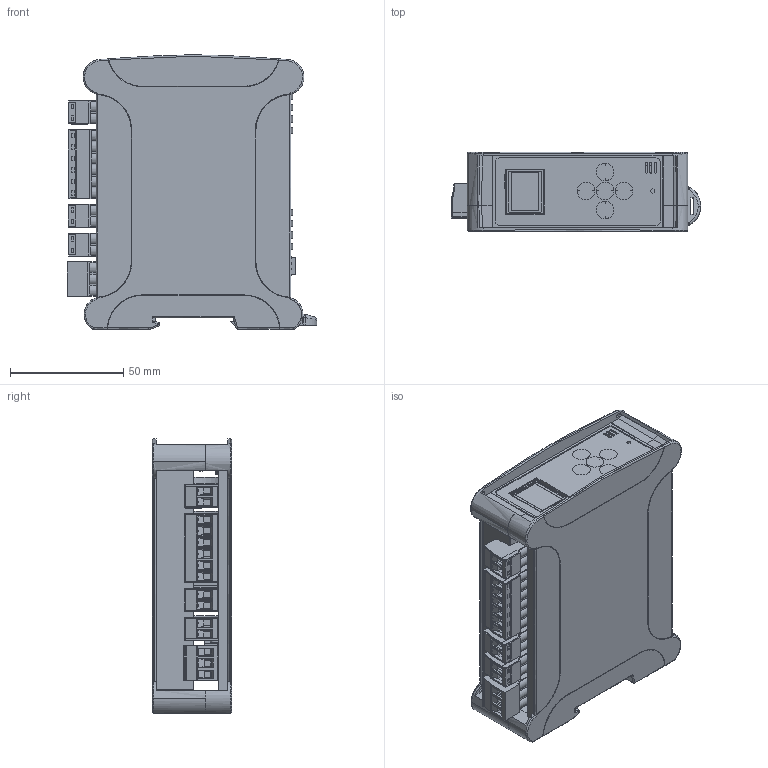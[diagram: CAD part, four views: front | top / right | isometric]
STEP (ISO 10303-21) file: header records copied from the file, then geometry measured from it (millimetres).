
FILE_DESCRIPTION(/* description */ (''),/* implementation_level */ '2;1');
FILE_NAME(/* name */ 'SNS11U~1',/* time_stamp */ '2020-09-03T12:33:45+02:00',/* author */ (''),/* organization */ (''),/* preprocessor_version */ 'ST-DEVELOPER v14',/* originating_system */ '',/* authorisation */ '');
FILE_SCHEMA (('CONFIG_CONTROL_DESIGN'));
Products named in the file (37): SNS11UM00; CMX_35_3D; Blocco 01; TMS-PWR_R1_SAUL_RJ45; Front_CTRL_Panel_Decal; TMS-CTR_R1; Free-Models; STR-S69571-DD008MB_V01_9; STR-S69571-DD008MB_V01_3; STR-S69571-DD008MB_V01_5; STR-S69571-DD008MB_V01_6; STR-S69571-DD008MB_V01; STR-S69571-DD008MB_V01_2; STR-S69571-DD008MB_V01_8; STR-S69571-DD008MB_V01_7; STR-S69571-DD008MB_V01_4; DT-03731DSI_Gost press; J11; STEP-7499021125-rev1; Shielding; Insulator; Insulator_2; J8; 022057048; Open CASCADE STEP translator 6.8 1.103.1.1; MSTB_2.5_3-ST-5.08; MSTB-2-5-2-ST-5-08_3D1; MSTB-2.5-Clamp-sleeve.1; MSTB-2.5-GEH; CMX_35_3D001; Blocco 02; MSTB-2-5-2-ST-5-08_3D; Coprifessura fratturabile_Ver 4; MSTB-2-5-6-ST-5-08_3D; MSTB-2.5-ST-5.08; MSTB-2-5-2-ST-5-08_3D2; Housing_lock
Assembly tree (45 placements, depth 6):
  SNS11UM00
    CMX_35_3D
      Blocco 01
    TMS-PWR_R1_SAUL_RJ45
      Front_CTRL_Panel_Decal
        TMS-CTR_R1
          Free-Models
            STR-S69571-DD008MB_V01_9
            STR-S69571-DD008MB_V01_3
            STR-S69571-DD008MB_V01_5
            STR-S69571-DD008MB_V01_6
            STR-S69571-DD008MB_V01
            STR-S69571-DD008MB_V01_2
            STR-S69571-DD008MB_V01_8
            STR-S69571-DD008MB_V01_7
            STR-S69571-DD008MB_V01_4
        DT-03731DSI_Gost press
      J11
        STEP-7499021125-rev1
          Shielding
          Insulator
          Insulator_2  x2
      J8
        022057048
          Open CASCADE STEP translator 6.8 1.103.1.1
    MSTB_2.5_3-ST-5.08
    MSTB-2-5-2-ST-5-08_3D1
      MSTB-2.5-Clamp-sleeve.1  x2
      MSTB-2.5-GEH
    CMX_35_3D001
      Blocco 02
    MSTB-2-5-2-ST-5-08_3D
      MSTB-2.5-Clamp-sleeve.1  x2
      MSTB-2.5-GEH
    Coprifessura fratturabile_Ver 4  x2
    MSTB-2-5-6-ST-5-08_3D
      MSTB-2.5-ST-5.08
    MSTB-2-5-2-ST-5-08_3D2
      MSTB-2.5-GEH
      MSTB-2.5-Clamp-sleeve.1  x2
    Housing_lock
Bounding box: 110.26 x 35 x 121.28 mm (x, y, z)
Volume: 13548.2 mm3; surface area: 109999.4 mm2
Topology: 24 solids, 35 shells, 6344 faces, 17530 edges, 11376 vertices
Faces by surface type: plane 4823, bspline 1521
Entity records: 156310 total; most frequent: CARTESIAN_POINT 71080, ORIENTED_EDGE 25314, EDGE_CURVE 12754, B_SPLINE_CURVE_WITH_KNOTS 10632, VERTEX_POINT 8262, EDGE_LOOP 4909, ADVANCED_FACE 4644, FACE_OUTER_BOUND 4644
